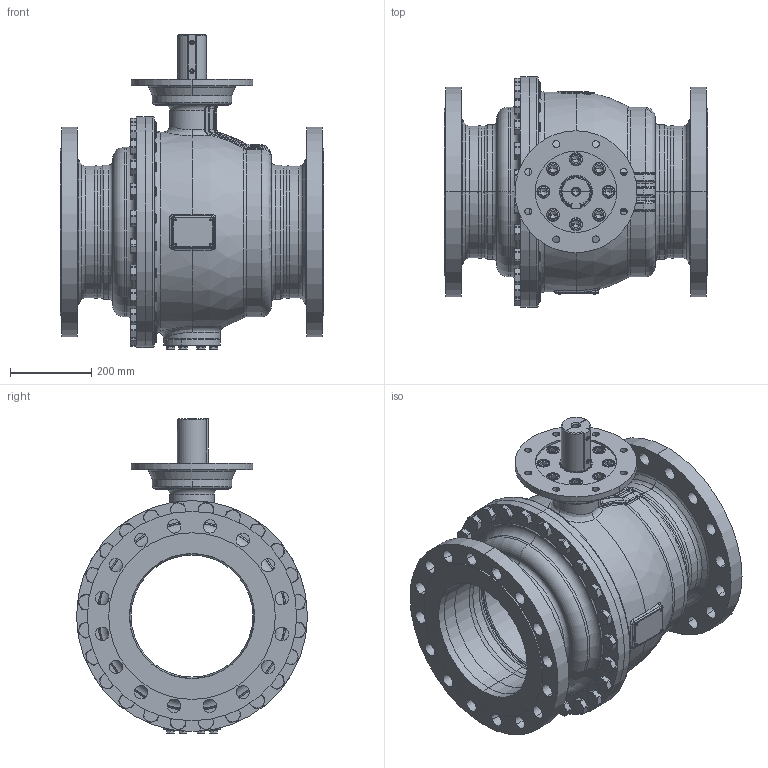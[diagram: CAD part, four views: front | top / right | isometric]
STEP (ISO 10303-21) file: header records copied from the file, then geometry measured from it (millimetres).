
FILE_DESCRIPTION((''),'2;1');
FILE_NAME('KHI-F_300-PN040-F25-P_SW0001','2026-02-05T14:53:49',('fischerkl'),('KLINGER'),'CREO PARAMETRIC BY PTC INC, 2023014','CREO PARAMETRIC BY PTC INC, 2023014','');
FILE_SCHEMA(('CONFIG_CONTROL_DESIGN'));
Products named in the file (1): KHI-F_300-PN040-F25-P_SW0001
Bounding box: 648 x 568 x 774.8 mm (x, y, z)
Volume: 35327263.3 mm3; surface area: 4821292.8 mm2
Topology: 1 solids, 4 shells, 3423 faces, 8678 edges, 5428 vertices
Faces by surface type: plane 1749, cylinder 785, cone 448, torus 301, bspline 111, sphere 29
Entity records: 145770 total; most frequent: CARTESIAN_POINT 64346, ORIENTED_EDGE 17304, DIRECTION 16689, EDGE_CURVE 8652, AXIS2_PLACEMENT_3D 6369, VERTEX_POINT 5428, VECTOR 3951, LINE 3951
